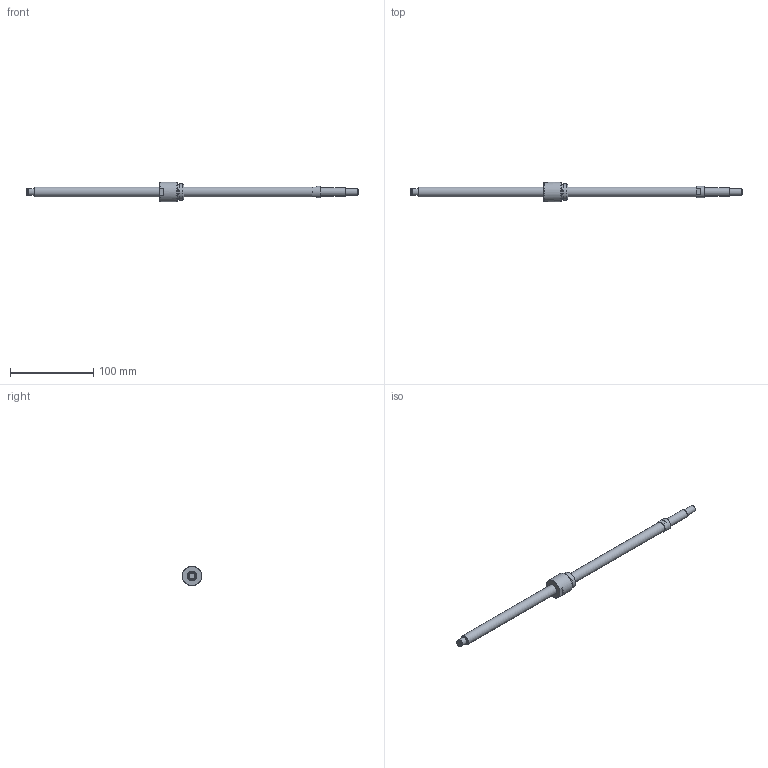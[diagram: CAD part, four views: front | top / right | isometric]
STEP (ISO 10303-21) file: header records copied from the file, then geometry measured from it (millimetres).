
FILE_DESCRIPTION(/* description */ ('STEP AP214'),/* implementation_level */ '2;1');
FILE_NAME(/* name */ 'NSG1204-331R400C5B0X(151)',/* time_stamp */ '2026-08-20T15:51:02+02:00',/* author */ ('License CC BY-ND 4.0'),/* organization */ ('CADENAS'),/* preprocessor_version */ 'ST-DEVELOPER v20',/* originating_system */ 'PARTsolutions',/* authorisation */ ' ');
FILE_SCHEMA (('AUTOMOTIVE_DESIGN {1 0 10303 214 3 1 1}'));
Length unit declared in the file: millimetre
Products named in the file (3): NSG1204-331R400C5B0X(151); NSG1204-331R400C3B_shaft; NSG1204_nut
Assembly tree (2 placements, depth 2):
  NSG1204-331R400C5B0X(151)
    NSG1204-331R400C3B_shaft
    NSG1204_nut
Bounding box: 400 x 24 x 24 mm (x, y, z)
Volume: 51492.5 mm3; surface area: 18752.1 mm2
Topology: 2 solids, 2 shells, 42 faces, 83 edges, 51 vertices
Faces by surface type: plane 20, cylinder 11, cone 10, torus 1
Full cylindrical faces by diameter (mm): 7.6 x1, 8 x3, 10 x1, 12 x2, 14 x1, 18.4 x1, 20 x1, 24 x1
Entity records: 1047 total; most frequent: DIRECTION 186, CARTESIAN_POINT 167, ORIENTED_EDGE 122, AXIS2_PLACEMENT_3D 84, EDGE_LOOP 70, FACE_BOUND 70, EDGE_CURVE 61, VERTEX_POINT 49
